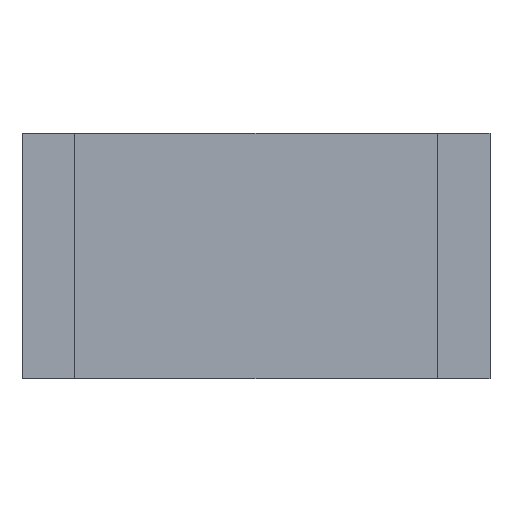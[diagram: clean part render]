
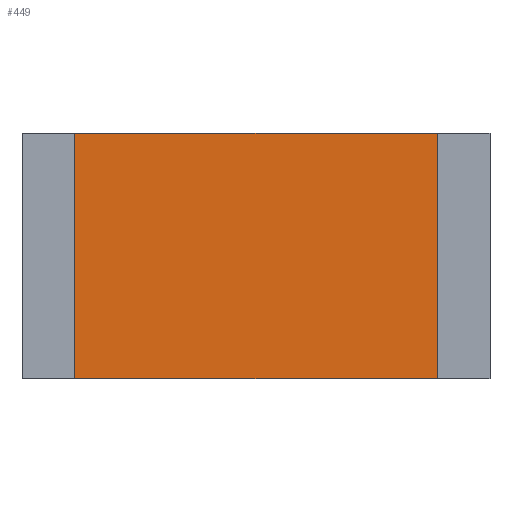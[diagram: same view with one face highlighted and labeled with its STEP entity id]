
A CAD part, top view. The second image highlights one B-rep face of the part: STEP entity #449.
In plain terms, the highlighted planar face has unit normal (0, 0, 1).
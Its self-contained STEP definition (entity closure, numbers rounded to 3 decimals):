
#31=FACE_OUTER_BOUND('',#57,.T.);
#57=EDGE_LOOP('',(#347,#348,#349,#350));
#95=LINE('',#679,#155);
#99=LINE('',#687,#159);
#102=LINE('',#693,#162);
#103=LINE('',#694,#163);
#155=VECTOR('',#559,10.);
#159=VECTOR('',#565,10.);
#162=VECTOR('',#570,10.);
#163=VECTOR('',#571,10.);
#207=VERTEX_POINT('',#677);
#208=VERTEX_POINT('',#678);
#211=VERTEX_POINT('',#686);
#213=VERTEX_POINT('',#692);
#255=EDGE_CURVE('',#207,#208,#95,.T.);
#259=EDGE_CURVE('',#211,#207,#99,.T.);
#262=EDGE_CURVE('',#211,#213,#102,.T.);
#263=EDGE_CURVE('',#213,#208,#103,.T.);
#347=ORIENTED_EDGE('',*,*,#262,.T.);
#348=ORIENTED_EDGE('',*,*,#263,.T.);
#349=ORIENTED_EDGE('',*,*,#255,.F.);
#350=ORIENTED_EDGE('',*,*,#259,.F.);
#423=PLANE('',#497);
#449=ADVANCED_FACE('',(#31),#423,.T.);
#497=AXIS2_PLACEMENT_3D('',#691,#568,#569);
#559=DIRECTION('',(0.,-1.,0.));
#565=DIRECTION('',(1.,0.,0.));
#568=DIRECTION('center_axis',(0.,0.,1.));
#569=DIRECTION('ref_axis',(1.,0.,0.));
#570=DIRECTION('',(0.,-1.,0.));
#571=DIRECTION('',(1.,0.,0.));
#677=CARTESIAN_POINT('',(3.04,1.6,0.445));
#678=CARTESIAN_POINT('',(3.04,0.,0.445));
#679=CARTESIAN_POINT('',(3.04,1.6,0.445));
#686=CARTESIAN_POINT('',(0.,1.6,0.445));
#687=CARTESIAN_POINT('',(0.,1.6,0.445));
#691=CARTESIAN_POINT('Origin',(1.52,-0.001,0.445));
#692=CARTESIAN_POINT('',(0.,0.,0.445));
#693=CARTESIAN_POINT('',(0.,1.6,0.445));
#694=CARTESIAN_POINT('',(0.,0.,0.445));
